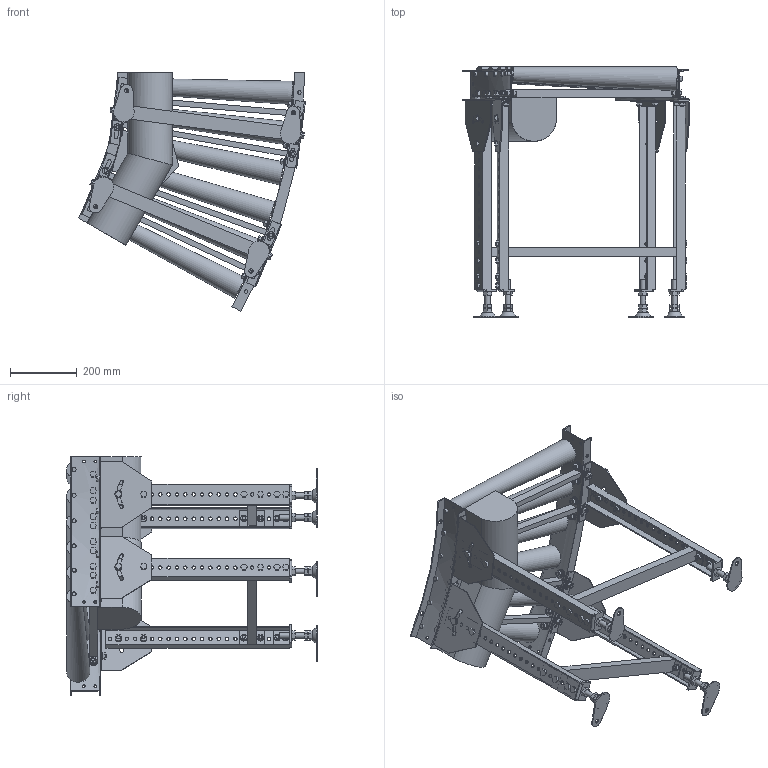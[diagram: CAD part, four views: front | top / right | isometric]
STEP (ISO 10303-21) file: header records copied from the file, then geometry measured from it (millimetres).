
FILE_DESCRIPTION( (''), '2;1');
FILE_NAME ('WEB-MCD-50-500-100-30°-C9.stp','2026-02-20T12:14:46',(''),(''),'spGate 20.6.2 (****-****-****-****)','','');
FILE_SCHEMA (('AUTOMOTIVE_DESIGN'));
Length unit declared in the file: millimetre
Products named in the file (29): WEB-MCD-50-500-100-30_-C9; TEMP_X_T-prt0; TEMP_X_T-prt1; TEMP_X_T-prt2; TEMP_X_T-prt3; TEMP_X_T-prt4; TEMP_X_T-prt5; TEMP_X_T-prt6; TEMP_X_T-prt7; TEMP_X_T-prt8; TEMP_X_T-prt9; TEMP_X_T-prt10; TEMP_X_T-prt11; TEMP_X_T-prt12; TEMP_X_T-prt13; TEMP_X_T-prt14; TEMP_X_T-prt15; TEMP_X_T-prt16; TEMP_X_T-prt17; TEMP_X_T-prt18; TEMP_X_T-prt19; TEMP_X_T-prt20; TEMP_X_T-prt21; TEMP_X_T-prt22; TEMP_X_T-prt23; TEMP_X_T-prt24; TEMP_X_T-prt25; TEMP_X_T-prt26; TEMP_X_T-prt27
Assembly tree (28 placements, depth 2):
  WEB-MCD-50-500-100-30_-C9
    TEMP_X_T-prt0
    TEMP_X_T-prt1
    TEMP_X_T-prt2
    TEMP_X_T-prt3
    TEMP_X_T-prt4
    TEMP_X_T-prt5
    TEMP_X_T-prt6
    TEMP_X_T-prt7
    TEMP_X_T-prt8
    TEMP_X_T-prt9
    TEMP_X_T-prt10
    TEMP_X_T-prt11
    TEMP_X_T-prt12
    TEMP_X_T-prt13
    TEMP_X_T-prt14
    TEMP_X_T-prt15
    TEMP_X_T-prt16
    TEMP_X_T-prt17
    TEMP_X_T-prt18
    TEMP_X_T-prt19
    TEMP_X_T-prt20
    TEMP_X_T-prt21
    TEMP_X_T-prt22
    TEMP_X_T-prt23
    TEMP_X_T-prt24
    TEMP_X_T-prt25
    TEMP_X_T-prt26
    TEMP_X_T-prt27
Bounding box: 678.74 x 750.06 x 715 mm (x, y, z)
Volume: 21519098 mm3; surface area: 2514975.3 mm2
Topology: 28 solids, 48 shells, 2186 faces, 5279 edges, 3391 vertices
Faces by surface type: plane 1832, cylinder 343, bspline 11
Full cylindrical faces by diameter (mm): 8.5 x8, 10 x60, 10.5 x92, 11 x2, 12 x14, 13 x4, 14 x5, 16 x4, 18.4 x42, 18.5 x8, 21 x30
Entity records: 110203 total; most frequent: CARTESIAN_POINT 13797, DIRECTION 10959, ORIENTED_EDGE 10558, COLOUR_RGB 7493, PRESENTATION_STYLE_ASSIGNMENT 7493, STYLED_ITEM 7493, EDGE_CURVE 5279, DRAUGHTING_PRE_DEFINED_CURVE_FONT 5279
